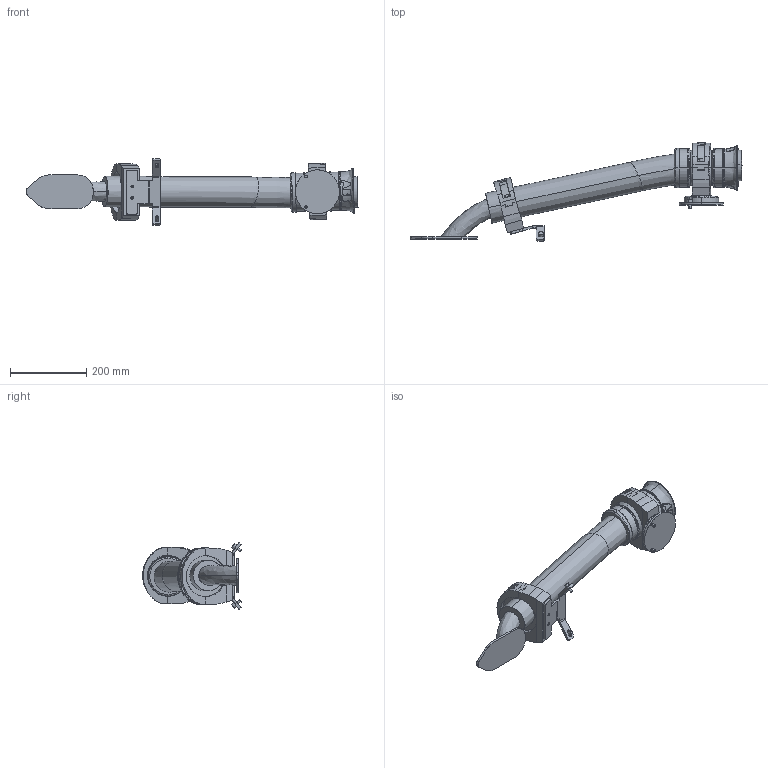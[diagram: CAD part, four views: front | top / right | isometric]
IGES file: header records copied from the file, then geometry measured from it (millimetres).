
Start section: SolidWorks IGES file using analytic representation for surfaces
Global section: file name: C:\Users\seamsto1\Desktop\Lättvikt\IRB6710-LID-MH_175kg-265_OC_00_SW_J\IRB6710-LID-MH_175kg-265_OC_00_IGES_J\IRB6710-LID_175kg-265_OC_00_LINK04_CABLE.IGS; native system: SolidWorks 2020; preprocessor: SolidWorks 2020; author: SEAMSTO1; date: 230510.124407; units: millimetre
Bounding box: 869.23 x 257.93 x 174.65 mm (x, y, z)
Surface area: 396932.6 mm2 (no closed solid volume)
Topology: 0 solids, 0 shells, 429 faces, 8068 edges, 8068 vertices
Faces by surface type: bspline 267, revolution 162
